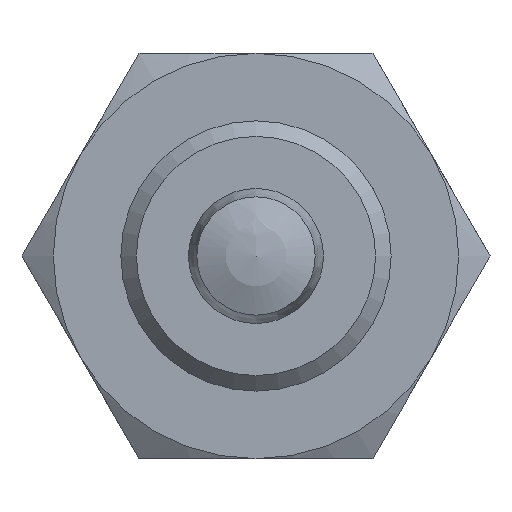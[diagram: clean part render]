
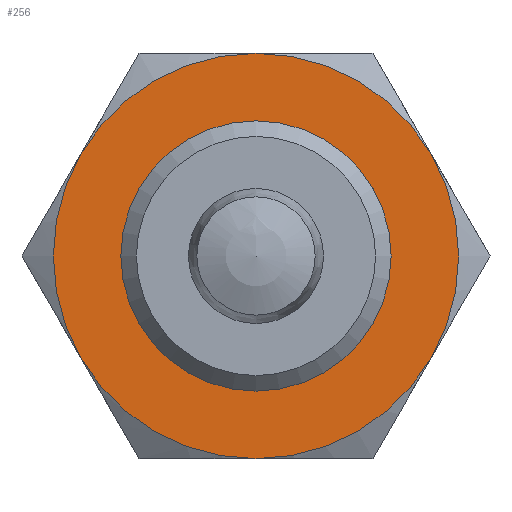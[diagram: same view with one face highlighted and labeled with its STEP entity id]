
A CAD part, front view. The second image highlights one B-rep face of the part: STEP entity #256.
In plain terms, the highlighted planar face has unit normal (0, -1, 0).
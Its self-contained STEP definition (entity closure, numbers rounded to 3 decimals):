
#256 = ADVANCED_FACE( '', ( #383, #384 ), #385, .F. );
#383 = FACE_BOUND( '', #518, .T. );
#384 = FACE_OUTER_BOUND( '', #519, .T. );
#385 = PLANE( '', #520 );
#518 = EDGE_LOOP( '', ( #864 ) );
#519 = EDGE_LOOP( '', ( #865, #866, #867, #868, #869, #870 ) );
#520 = AXIS2_PLACEMENT_3D( '', #871, #872, #873 );
#864 = ORIENTED_EDGE( '', *, *, #996, .F. );
#865 = ORIENTED_EDGE( '', *, *, #991, .T. );
#866 = ORIENTED_EDGE( '', *, *, #993, .T. );
#867 = ORIENTED_EDGE( '', *, *, #995, .T. );
#868 = ORIENTED_EDGE( '', *, *, #964, .T. );
#869 = ORIENTED_EDGE( '', *, *, #989, .T. );
#870 = ORIENTED_EDGE( '', *, *, #990, .T. );
#871 = CARTESIAN_POINT( '', ( 12., 0., 0. ) );
#872 = DIRECTION( '', ( 0., 1., 0. ) );
#873 = DIRECTION( '', ( 0., 0., 1. ) );
#964 = EDGE_CURVE( '', #1116, #1117, #1118, .T. );
#989 = EDGE_CURVE( '', #1117, #1098, #1155, .T. );
#990 = EDGE_CURVE( '', #1098, #1110, #1156, .T. );
#991 = EDGE_CURVE( '', #1110, #1157, #1158, .T. );
#993 = EDGE_CURVE( '', #1157, #1125, #1160, .T. );
#995 = EDGE_CURVE( '', #1125, #1116, #1162, .T. );
#996 = EDGE_CURVE( '', #1163, #1163, #1164, .T. );
#1098 = VERTEX_POINT( '', #1353 );
#1110 = VERTEX_POINT( '', #1391 );
#1116 = VERTEX_POINT( '', #1421 );
#1117 = VERTEX_POINT( '', #1422 );
#1118 = CIRCLE( '', #1423, 12. );
#1125 = VERTEX_POINT( '', #1441 );
#1155 = CIRCLE( '', #1547, 12. );
#1156 = CIRCLE( '', #1548, 12. );
#1157 = VERTEX_POINT( '', #1549 );
#1158 = CIRCLE( '', #1550, 12. );
#1160 = CIRCLE( '', #1557, 12. );
#1162 = CIRCLE( '', #1566, 12. );
#1163 = VERTEX_POINT( '', #1567 );
#1164 = CIRCLE( '', #1568, 8. );
#1353 = CARTESIAN_POINT( '', ( -10.392, 0., -6. ) );
#1391 = CARTESIAN_POINT( '', ( 0., 0., -12. ) );
#1421 = CARTESIAN_POINT( '', ( 0., 0., 12. ) );
#1422 = CARTESIAN_POINT( '', ( -10.392, 0., 6. ) );
#1423 = AXIS2_PLACEMENT_3D( '', #1684, #1685, #1686 );
#1441 = CARTESIAN_POINT( '', ( 10.392, 0., 6. ) );
#1547 = AXIS2_PLACEMENT_3D( '', #1711, #1712, #1713 );
#1548 = AXIS2_PLACEMENT_3D( '', #1714, #1715, #1716 );
#1549 = CARTESIAN_POINT( '', ( 10.392, 0., -6. ) );
#1550 = AXIS2_PLACEMENT_3D( '', #1717, #1718, #1719 );
#1557 = AXIS2_PLACEMENT_3D( '', #1720, #1721, #1722 );
#1566 = AXIS2_PLACEMENT_3D( '', #1723, #1724, #1725 );
#1567 = CARTESIAN_POINT( '', ( 0., 0., -8. ) );
#1568 = AXIS2_PLACEMENT_3D( '', #1726, #1727, #1728 );
#1684 = CARTESIAN_POINT( '', ( 0., 0., 0. ) );
#1685 = DIRECTION( '', ( 0., -1., 0. ) );
#1686 = DIRECTION( '', ( 0., 0., -1. ) );
#1711 = CARTESIAN_POINT( '', ( 0., 0., 0. ) );
#1712 = DIRECTION( '', ( 0., -1., 0. ) );
#1713 = DIRECTION( '', ( 0., 0., -1. ) );
#1714 = CARTESIAN_POINT( '', ( 0., 0., 0. ) );
#1715 = DIRECTION( '', ( 0., -1., 0. ) );
#1716 = DIRECTION( '', ( 0., 0., -1. ) );
#1717 = CARTESIAN_POINT( '', ( 0., 0., 0. ) );
#1718 = DIRECTION( '', ( 0., -1., 0. ) );
#1719 = DIRECTION( '', ( 0., 0., -1. ) );
#1720 = CARTESIAN_POINT( '', ( 0., 0., 0. ) );
#1721 = DIRECTION( '', ( 0., -1., 0. ) );
#1722 = DIRECTION( '', ( 0., 0., -1. ) );
#1723 = CARTESIAN_POINT( '', ( 0., 0., 0. ) );
#1724 = DIRECTION( '', ( 0., -1., 0. ) );
#1725 = DIRECTION( '', ( 0., 0., -1. ) );
#1726 = CARTESIAN_POINT( '', ( 0., 0., 0. ) );
#1727 = DIRECTION( '', ( 0., -1., 0. ) );
#1728 = DIRECTION( '', ( 0., 0., -1. ) );
